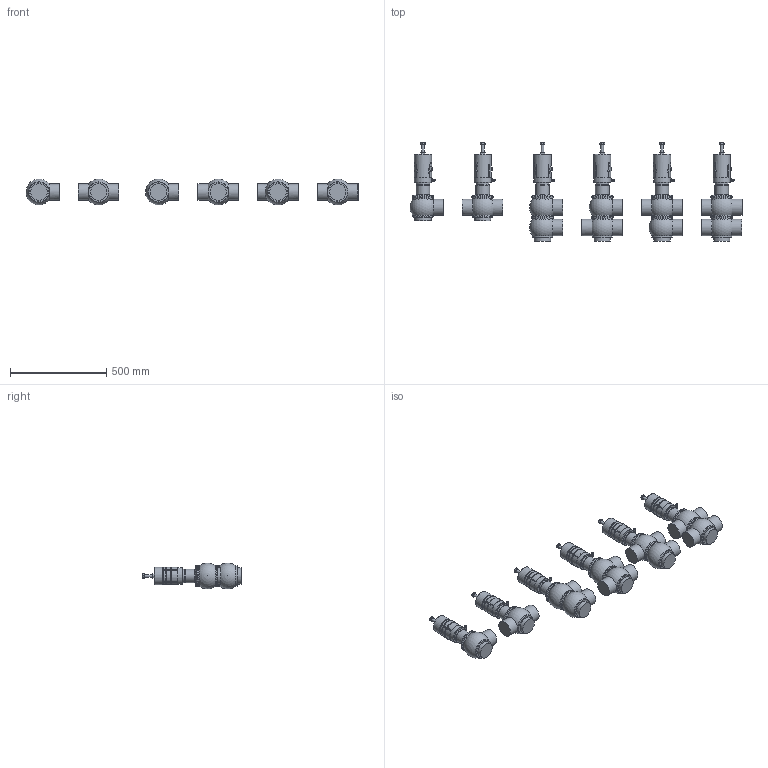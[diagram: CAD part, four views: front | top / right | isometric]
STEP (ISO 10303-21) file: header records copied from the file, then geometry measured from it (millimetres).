
FILE_DESCRIPTION((''),'2;1');
FILE_NAME('\\BV-SRV1\Ufficio tecnico\cad3d\PNEUMATICA\Ing1-1\pne bbzp e derivate\BBZS5\BBZS5-DN080-CIL83-SAL.iam.step','2009-10-19T10:18:13',(''),(''),'Autodesk Inventor 2010','Autodesk Inventor 2010','');
FILE_SCHEMA(('AUTOMOTIVE_DESIGN { 1 0 10303 214 1 1 1 1 }'));
Length unit declared in the file: millimetre
Products named in the file (7): BBZS5-DN080-CIL83-SAL; Assemblaggio-DN080; COR-INF-L-SAL-DN80; COR-INF-T-SAL-DN80; COR-SUP-L-SAL-DN80; COR-SUP-T-SAL-DN80; cil 83  tarabile
Assembly tree (22 placements, depth 2):
  BBZS5-DN080-CIL83-SAL
    Assemblaggio-DN080  x6
    COR-INF-L-SAL-DN80  x3
    COR-INF-T-SAL-DN80  x3
    COR-SUP-L-SAL-DN80  x2
    COR-SUP-T-SAL-DN80  x2
    cil 83  tarabile  x6
Bounding box: 1722.25 x 509.8 x 134.5 mm (x, y, z)
Volume: 24368149.5 mm3; surface area: 1484553 mm2
Topology: 22 solids, 52 shells, 1337 faces, 3188 edges, 1926 vertices
Faces by surface type: plane 491, cylinder 349, cone 266, bspline 96, sphere 87, torus 48
Full cylindrical faces by diameter (mm): 4.9 x6, 6 x12, 7 x6, 8.3 x6, 10 x6, 11 x6, 11.5 x6, 14 x18, 19.37 x6, 69 x6, 71 x6, 84.813 x18, 85 x21, 86 x12, 86.1 x6, 88.5 x6, 89.5 x6, 105 x26, 113 x20
Entity records: 7678 total; most frequent: CARTESIAN_POINT 2086, DIRECTION 1108, ORIENTED_EDGE 952, AXIS2_PLACEMENT_3D 476, EDGE_CURVE 476, EDGE_LOOP 351, VERTEX_POINT 327, FACE_OUTER_BOUND 253
